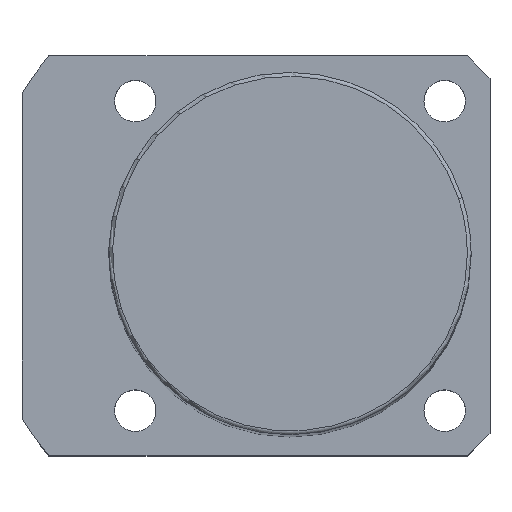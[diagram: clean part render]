
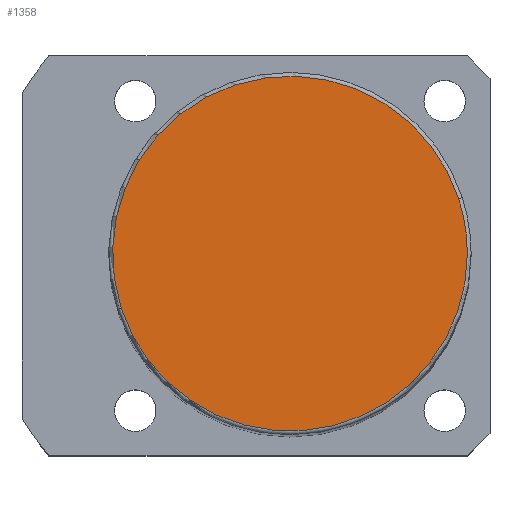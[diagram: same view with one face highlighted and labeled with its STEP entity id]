
A CAD part, top view. The second image highlights one B-rep face of the part: STEP entity #1358.
In plain terms, the highlighted planar face has unit normal (0, 0, 1).
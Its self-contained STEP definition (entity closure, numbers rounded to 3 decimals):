
#1324=CARTESIAN_POINT('',(23.5,0.0,184.0));
#1325=VERTEX_POINT('',#1324);
#1326=CARTESIAN_POINT('',(22.35,7.262,184.0));
#1327=VERTEX_POINT('',#1326);
#1328=CARTESIAN_POINT('',(0.0,0.0,184.0));
#1329=DIRECTION('',(0.0,0.0,1.0));
#1330=DIRECTION('',(1.0,0.0,0.0));
#1331=AXIS2_PLACEMENT_3D('',#1328,#1329,#1330);
#1332=CIRCLE('',#1331,23.5);
#1333=EDGE_CURVE('no 1846',#1325,#1327,#1332,.T.);
#1334=ORIENTED_EDGE('',*,*,#1333,.T.);
#1335=CARTESIAN_POINT('',(-22.35,-7.262,184.0));
#1336=VERTEX_POINT('',#1335);
#1337=CARTESIAN_POINT('',(0.0,0.0,184.0));
#1338=DIRECTION('',(0.0,0.0,1.0));
#1339=DIRECTION('',(1.0,0.0,0.0));
#1340=AXIS2_PLACEMENT_3D('',#1337,#1338,#1339);
#1341=CIRCLE('',#1340,23.5);
#1342=EDGE_CURVE('no 1852',#1327,#1336,#1341,.T.);
#1343=ORIENTED_EDGE('',*,*,#1342,.T.);
#1344=CARTESIAN_POINT('',(0.0,0.0,184.0));
#1345=DIRECTION('',(0.0,0.0,1.0));
#1346=DIRECTION('',(1.0,0.0,0.0));
#1347=AXIS2_PLACEMENT_3D('',#1344,#1345,#1346);
#1348=CIRCLE('',#1347,23.5);
#1349=EDGE_CURVE('no 1856',#1336,#1325,#1348,.T.);
#1350=ORIENTED_EDGE('',*,*,#1349,.T.);
#1351=EDGE_LOOP('',(#1334,#1343,#1350));
#1352=FACE_OUTER_BOUND('',#1351,.T.);
#1353=CARTESIAN_POINT('',(0.0,0.0,184.0));
#1354=DIRECTION('',(0.0,0.0,1.0));
#1355=DIRECTION('',(1.0,0.0,0.0));
#1356=AXIS2_PLACEMENT_3D('',#1353,#1354,#1355);
#1357=PLANE('',#1356);
#1358=ADVANCED_FACE('no 1837',(#1352),#1357,.T.);
